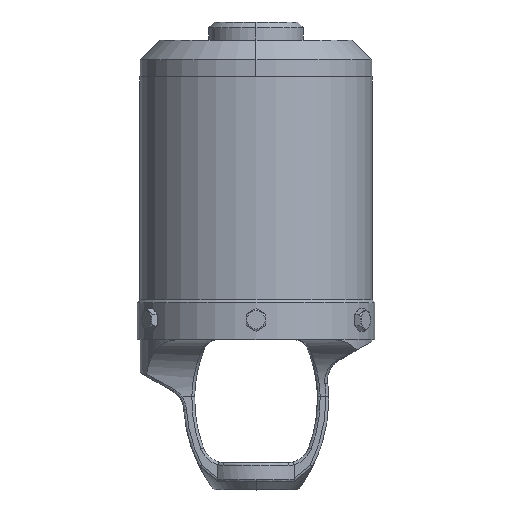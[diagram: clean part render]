
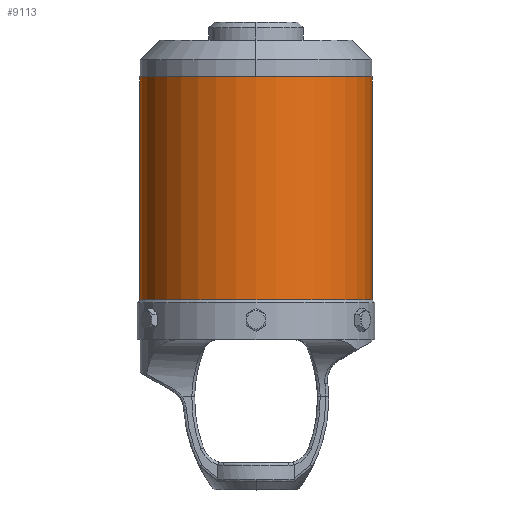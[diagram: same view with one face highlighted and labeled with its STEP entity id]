
A CAD part, top view. The second image highlights one B-rep face of the part: STEP entity #9113.
In plain terms, the highlighted cylindrical face has radius 64.986 mm (diameter 129.972 mm), a partial arc.
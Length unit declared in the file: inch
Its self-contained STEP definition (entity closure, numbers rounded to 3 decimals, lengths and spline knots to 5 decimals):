
#4 = EDGE_LOOP ( 'NONE', ( #7602, #6706, #8881, #5204 ) ) ;
#89 = VERTEX_POINT ( 'NONE', #4443 ) ;
#153 = DIRECTION ( 'NONE',  ( -1., 0., 0. ) ) ;
#325 = DIRECTION ( 'NONE',  ( -1., 0., 0. ) ) ;
#479 = DIRECTION ( 'NONE',  ( 0., 1., 0. ) ) ;
#2158 = CARTESIAN_POINT ( 'NONE',  ( 0., -1.553, 0. ) ) ;
#2347 = CARTESIAN_POINT ( 'NONE',  ( 2.5585, -0.21374, 0. ) ) ;
#2463 = DIRECTION ( 'NONE',  ( 0., 1., 0. ) ) ;
#2516 = EDGE_CURVE ( 'NONE', #7323, #6836, #4268, .T. ) ;
#2799 = CIRCLE ( 'NONE', #9004, 2.5585 ) ;
#2891 = DIRECTION ( 'NONE',  ( -1., 0., 0. ) ) ;
#2899 = DIRECTION ( 'NONE',  ( 0., 1., 0. ) ) ;
#2953 = AXIS2_PLACEMENT_3D ( 'NONE', #4663, #2463, #325 ) ;
#3270 = EDGE_CURVE ( 'NONE', #89, #8085, #9200, .T. ) ;
#3840 = VECTOR ( 'NONE', #479, 39.37008 ) ;
#4266 = VECTOR ( 'NONE', #2899, 39.37008 ) ;
#4268 = LINE ( 'NONE', #2347, #4266 ) ;
#4443 = CARTESIAN_POINT ( 'NONE',  ( -2.5585, -1.553, 0. ) ) ;
#4515 = DIRECTION ( 'NONE',  ( 0., -1., 0. ) ) ;
#4663 = CARTESIAN_POINT ( 'NONE',  ( 0., -0.21374, 0. ) ) ;
#4681 = CYLINDRICAL_SURFACE ( 'NONE', #2953, 2.5585 ) ;
#4780 = EDGE_CURVE ( 'NONE', #89, #7323, #2799, .T. ) ;
#4835 = CARTESIAN_POINT ( 'NONE',  ( -2.5585, 3.357, 0. ) ) ;
#4844 = CARTESIAN_POINT ( 'NONE',  ( -2.5585, -0.21374, 0. ) ) ;
#5204 = ORIENTED_EDGE ( 'NONE', *, *, #3270, .F. ) ;
#5567 = AXIS2_PLACEMENT_3D ( 'NONE', #8908, #4515, #153 ) ;
#6706 = ORIENTED_EDGE ( 'NONE', *, *, #2516, .T. ) ;
#6836 = VERTEX_POINT ( 'NONE', #9327 ) ;
#7108 = CARTESIAN_POINT ( 'NONE',  ( 2.5585, -1.553, 0. ) ) ;
#7268 = DIRECTION ( 'NONE',  ( 0., 1., 0. ) ) ;
#7323 = VERTEX_POINT ( 'NONE', #7108 ) ;
#7331 = CIRCLE ( 'NONE', #5567, 2.5585 ) ;
#7602 = ORIENTED_EDGE ( 'NONE', *, *, #4780, .T. ) ;
#8085 = VERTEX_POINT ( 'NONE', #4835 ) ;
#8822 = FACE_OUTER_BOUND ( 'NONE', #4, .T. ) ;
#8881 = ORIENTED_EDGE ( 'NONE', *, *, #9024, .T. ) ;
#8908 = CARTESIAN_POINT ( 'NONE',  ( 0., 3.357, 0. ) ) ;
#9004 = AXIS2_PLACEMENT_3D ( 'NONE', #2158, #7268, #2891 ) ;
#9024 = EDGE_CURVE ( 'NONE', #6836, #8085, #7331, .T. ) ;
#9113 = ADVANCED_FACE ( 'NONE', ( #8822 ), #4681, .T. ) ;
#9200 = LINE ( 'NONE', #4844, #3840 ) ;
#9327 = CARTESIAN_POINT ( 'NONE',  ( 2.5585, 3.357, 0. ) ) ;
